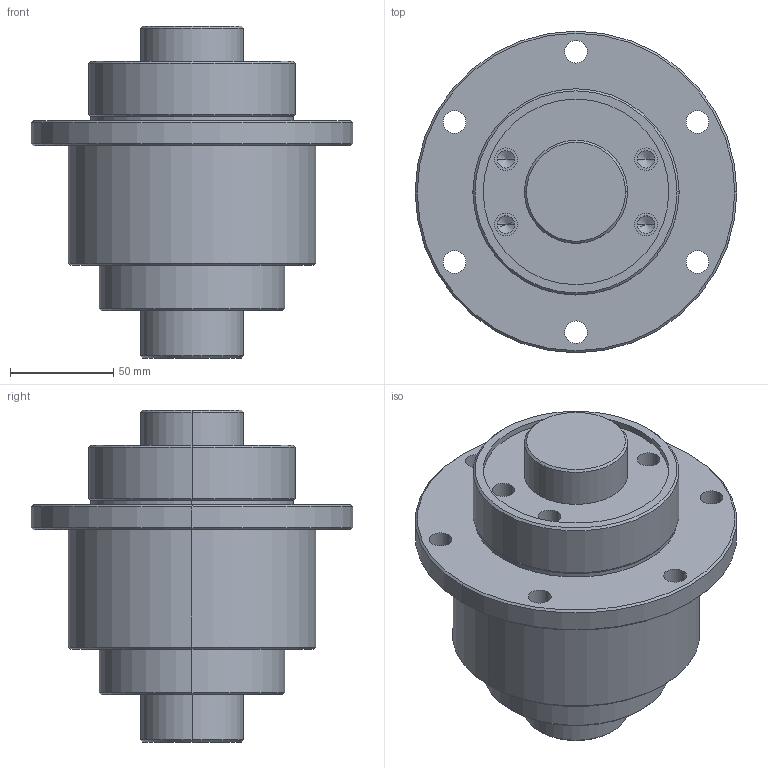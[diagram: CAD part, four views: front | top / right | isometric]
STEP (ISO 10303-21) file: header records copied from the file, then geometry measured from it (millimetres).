
FILE_DESCRIPTION (( 'STEP AP203' ), '1' );
FILE_NAME ('RFBY5050.STEP', '2014-11-13T09:02:50', ( '' ), ( '' ), 'SwSTEP 2.0', 'SolidWorks 2014', '' );
FILE_SCHEMA (( 'CONFIG_CONTROL_DESIGN' ));
Length unit declared in the file: millimetre
Products named in the file (1): RFBY5050
Bounding box: 156 x 156 x 161 mm (x, y, z)
Volume: 1302666.2 mm3; surface area: 145286.7 mm2
Topology: 3 solids, 3 shells, 84 faces, 186 edges, 112 vertices
Faces by surface type: cylinder 46, cone 24, plane 14
Entity records: 2395 total; most frequent: DIRECTION 456, CARTESIAN_POINT 375, ORIENTED_EDGE 356, AXIS2_PLACEMENT_3D 193, EDGE_CURVE 178, EDGE_LOOP 112, VERTEX_POINT 112, CIRCLE 108
